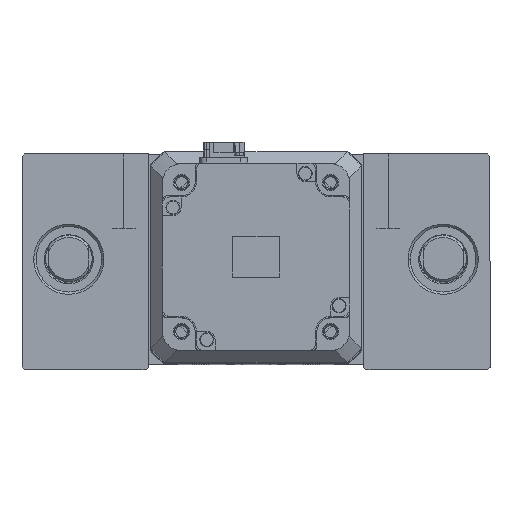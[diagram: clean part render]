
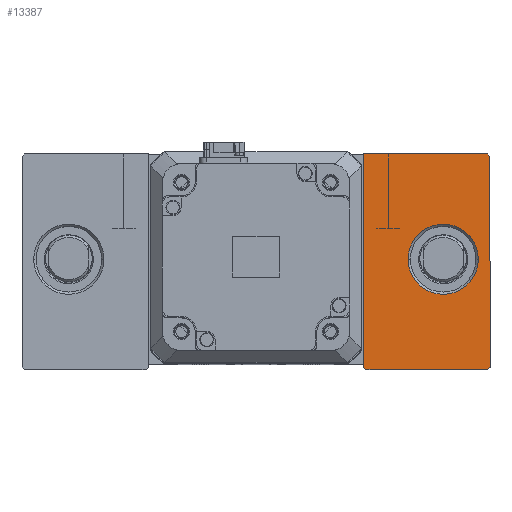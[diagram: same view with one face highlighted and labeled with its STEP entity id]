
A CAD part, top view. The second image highlights one B-rep face of the part: STEP entity #13387.
In plain terms, the highlighted planar face has unit normal (0, 0, 1).
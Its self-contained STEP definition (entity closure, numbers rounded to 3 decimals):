
#2693 = LINE ( 'NONE', #24220, #35512 ) ;
#2803 = DIRECTION ( 'NONE',  ( -1., 0., 0. ) ) ;
#3168 = DIRECTION ( 'NONE',  ( 1., 0., 0. ) ) ;
#3227 = ORIENTED_EDGE ( 'NONE', *, *, #8495, .T. ) ;
#3315 = LINE ( 'NONE', #23245, #36124 ) ;
#5501 = EDGE_CURVE ( 'NONE', #38620, #33527, #46515, .T. ) ;
#6397 = VERTEX_POINT ( 'NONE', #20745 ) ;
#7670 = EDGE_CURVE ( 'NONE', #6397, #30567, #44207, .T. ) ;
#8114 = DIRECTION ( 'NONE',  ( 0., 0., 1. ) ) ;
#8495 = EDGE_CURVE ( 'NONE', #23954, #32980, #2693, .T. ) ;
#9420 = ORIENTED_EDGE ( 'NONE', *, *, #11416, .T. ) ;
#9876 = VERTEX_POINT ( 'NONE', #13103 ) ;
#11416 = EDGE_CURVE ( 'NONE', #30567, #6397, #21730, .T. ) ;
#11918 = ORIENTED_EDGE ( 'NONE', *, *, #7670, .T. ) ;
#12345 = VECTOR ( 'NONE', #2803, 1000. ) ;
#12772 = VECTOR ( 'NONE', #53915, 1000. ) ;
#12817 = VERTEX_POINT ( 'NONE', #21207 ) ;
#13103 = CARTESIAN_POINT ( 'NONE',  ( 100., -46., 35. ) ) ;
#13387 = ADVANCED_FACE ( 'NONE', ( #40150, #18766 ), #37835, .T. ) ;
#14140 = EDGE_CURVE ( 'NONE', #12817, #9876, #35437, .T. ) ;
#14358 = EDGE_LOOP ( 'NONE', ( #11918, #9420 ) ) ;
#14447 = CARTESIAN_POINT ( 'NONE',  ( 46., 45., 35. ) ) ;
#14848 = DIRECTION ( 'NONE',  ( 0., 1., 0. ) ) ;
#15250 = CARTESIAN_POINT ( 'NONE',  ( 65., 0., 35. ) ) ;
#16805 = CARTESIAN_POINT ( 'NONE',  ( 99., 45., 35. ) ) ;
#17216 = CARTESIAN_POINT ( 'NONE',  ( 47., -47., 35. ) ) ;
#18294 = DIRECTION ( 'NONE',  ( 0., 0., -1. ) ) ;
#18403 = DIRECTION ( 'NONE',  ( -0.707, 0.707, 0. ) ) ;
#18717 = CARTESIAN_POINT ( 'NONE',  ( 46., 45., 35. ) ) ;
#18766 = FACE_OUTER_BOUND ( 'NONE', #39138, .T. ) ;
#20107 = ORIENTED_EDGE ( 'NONE', *, *, #38753, .T. ) ;
#20745 = CARTESIAN_POINT ( 'NONE',  ( 95., 0., 35. ) ) ;
#21207 = CARTESIAN_POINT ( 'NONE',  ( 99., -47., 35. ) ) ;
#21730 = CIRCLE ( 'NONE', #45816, 15. ) ;
#22999 = AXIS2_PLACEMENT_3D ( 'NONE', #54889, #8114, #38011 ) ;
#23024 = DIRECTION ( 'NONE',  ( 0., -1., 0. ) ) ;
#23245 = CARTESIAN_POINT ( 'NONE',  ( 100., 45., 35. ) ) ;
#23954 = VERTEX_POINT ( 'NONE', #26745 ) ;
#24220 = CARTESIAN_POINT ( 'NONE',  ( 0., 0., 35. ) ) ;
#25201 = VECTOR ( 'NONE', #18403, 1000. ) ;
#26745 = CARTESIAN_POINT ( 'NONE',  ( 46., -46., 35. ) ) ;
#28476 = CARTESIAN_POINT ( 'NONE',  ( 46., -47., 35. ) ) ;
#28705 = ORIENTED_EDGE ( 'NONE', *, *, #36545, .T. ) ;
#28822 = DIRECTION ( 'NONE',  ( 0., 0., -1. ) ) ;
#30567 = VERTEX_POINT ( 'NONE', #15250 ) ;
#32751 = CARTESIAN_POINT ( 'NONE',  ( 46., 45., 35. ) ) ;
#32980 = VERTEX_POINT ( 'NONE', #17216 ) ;
#33527 = VERTEX_POINT ( 'NONE', #16805 ) ;
#33850 = LINE ( 'NONE', #18717, #41136 ) ;
#35013 = ORIENTED_EDGE ( 'NONE', *, *, #14140, .T. ) ;
#35107 = LINE ( 'NONE', #32751, #12345 ) ;
#35437 = LINE ( 'NONE', #52195, #49430 ) ;
#35512 = VECTOR ( 'NONE', #45441, 1000. ) ;
#36124 = VECTOR ( 'NONE', #14848, 1000. ) ;
#36545 = EDGE_CURVE ( 'NONE', #9876, #38620, #3315, .T. ) ;
#37835 = PLANE ( 'NONE',  #22999 ) ;
#38011 = DIRECTION ( 'NONE',  ( 1., 0., 0. ) ) ;
#38620 = VERTEX_POINT ( 'NONE', #39124 ) ;
#38753 = EDGE_CURVE ( 'NONE', #45293, #23954, #33850, .T. ) ;
#39124 = CARTESIAN_POINT ( 'NONE',  ( 100., 44., 35. ) ) ;
#39138 = EDGE_LOOP ( 'NONE', ( #20107, #3227, #47203, #35013, #28705, #49661, #45283 ) ) ;
#40150 = FACE_BOUND ( 'NONE', #14358, .T. ) ;
#41136 = VECTOR ( 'NONE', #23024, 1000. ) ;
#42295 = EDGE_CURVE ( 'NONE', #32980, #12817, #42813, .T. ) ;
#42813 = LINE ( 'NONE', #28476, #12772 ) ;
#43638 = DIRECTION ( 'NONE',  ( 0.707, 0.707, 0. ) ) ;
#43837 = CARTESIAN_POINT ( 'NONE',  ( 80., 0., 35. ) ) ;
#44207 = CIRCLE ( 'NONE', #47782, 15. ) ;
#45283 = ORIENTED_EDGE ( 'NONE', *, *, #50982, .T. ) ;
#45293 = VERTEX_POINT ( 'NONE', #14447 ) ;
#45441 = DIRECTION ( 'NONE',  ( 0.707, -0.707, 0. ) ) ;
#45816 = AXIS2_PLACEMENT_3D ( 'NONE', #54269, #28822, #3168 ) ;
#46515 = LINE ( 'NONE', #48296, #25201 ) ;
#47203 = ORIENTED_EDGE ( 'NONE', *, *, #42295, .T. ) ;
#47782 = AXIS2_PLACEMENT_3D ( 'NONE', #43837, #18294, #48188 ) ;
#48188 = DIRECTION ( 'NONE',  ( 1., 0., 0. ) ) ;
#48296 = CARTESIAN_POINT ( 'NONE',  ( 72., 72., 35. ) ) ;
#49430 = VECTOR ( 'NONE', #43638, 1000. ) ;
#49661 = ORIENTED_EDGE ( 'NONE', *, *, #5501, .T. ) ;
#50982 = EDGE_CURVE ( 'NONE', #33527, #45293, #35107, .T. ) ;
#52195 = CARTESIAN_POINT ( 'NONE',  ( 73., -73., 35. ) ) ;
#53915 = DIRECTION ( 'NONE',  ( 1., 0., 0. ) ) ;
#54269 = CARTESIAN_POINT ( 'NONE',  ( 80., 0., 35. ) ) ;
#54889 = CARTESIAN_POINT ( 'NONE',  ( 0., 0., 35. ) ) ;
